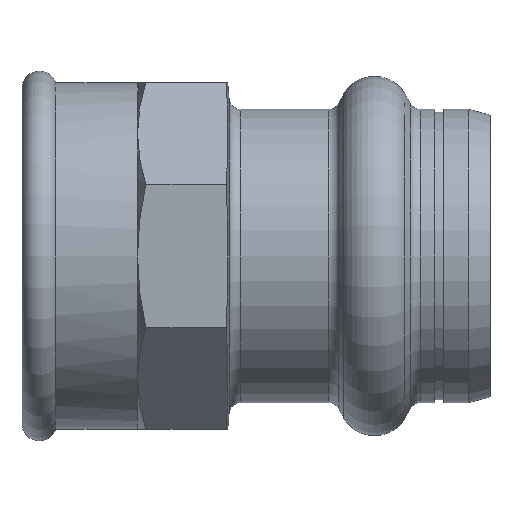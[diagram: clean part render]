
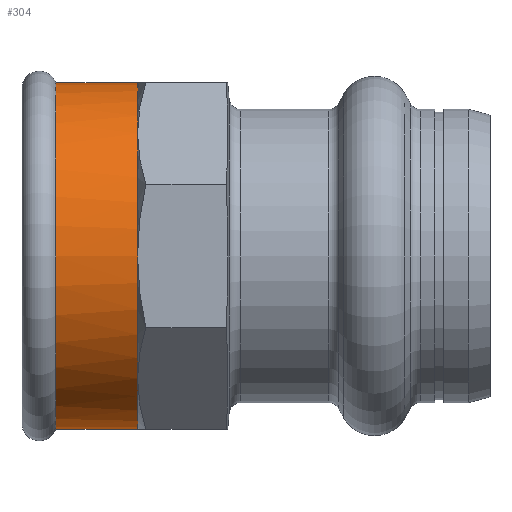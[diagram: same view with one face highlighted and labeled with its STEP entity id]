
A CAD part, left-side view. The second image highlights one B-rep face of the part: STEP entity #304.
In plain terms, the highlighted cylindrical face has radius 15 mm (diameter 30 mm), a partial arc.
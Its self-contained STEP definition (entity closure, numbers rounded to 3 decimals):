
#37 = DIRECTION ( 'NONE',  ( 0., 0., -1. ) ) ;
#163 = CARTESIAN_POINT ( 'NONE',  ( 0., 37.586, -15. ) ) ;
#171 = ORIENTED_EDGE ( 'NONE', *, *, #1885, .F. ) ;
#271 = CARTESIAN_POINT ( 'NONE',  ( -10.607, 30.5, 10.607 ) ) ;
#304 = ADVANCED_FACE ( 'NONE', ( #404 ), #348, .T. ) ;
#326 = LINE ( 'NONE', #698, #374 ) ;
#339 = DIRECTION ( 'NONE',  ( 0., 0., -1. ) ) ;
#348 = CYLINDRICAL_SURFACE ( 'NONE', #786, 15. ) ;
#374 = VECTOR ( 'NONE', #751, 1000. ) ;
#404 = FACE_OUTER_BOUND ( 'NONE', #1932, .T. ) ;
#429 = CARTESIAN_POINT ( 'NONE',  ( 0., 30.5, -15. ) ) ;
#517 = EDGE_CURVE ( 'NONE', #1335, #1547, #326, .T. ) ;
#527 = ORIENTED_EDGE ( 'NONE', *, *, #781, .F. ) ;
#532 = CARTESIAN_POINT ( 'NONE',  ( 0., 30.5, 0. ) ) ;
#536 = CIRCLE ( 'NONE', #640, 15. ) ;
#546 = DIRECTION ( 'NONE',  ( 0., -1., 0. ) ) ;
#573 = DIRECTION ( 'NONE',  ( 0., 0., -1. ) ) ;
#639 = LINE ( 'NONE', #1193, #1000 ) ;
#640 = AXIS2_PLACEMENT_3D ( 'NONE', #532, #546, #573 ) ;
#654 = CARTESIAN_POINT ( 'NONE',  ( 0., 30.5, 15. ) ) ;
#661 = AXIS2_PLACEMENT_3D ( 'NONE', #1596, #1603, #1617 ) ;
#698 = CARTESIAN_POINT ( 'NONE',  ( 0., -17.811, 15. ) ) ;
#723 = CARTESIAN_POINT ( 'NONE',  ( 0., 30.5, 0. ) ) ;
#742 = DIRECTION ( 'NONE',  ( 0., -1., 0. ) ) ;
#747 = VERTEX_POINT ( 'NONE', #163 ) ;
#751 = DIRECTION ( 'NONE',  ( 0., -1., 0. ) ) ;
#781 = EDGE_CURVE ( 'NONE', #1547, #1262, #1653, .T. ) ;
#786 = AXIS2_PLACEMENT_3D ( 'NONE', #1513, #1220, #339 ) ;
#837 = DIRECTION ( 'NONE',  ( 0., 0., -1. ) ) ;
#844 = AXIS2_PLACEMENT_3D ( 'NONE', #1459, #742, #837 ) ;
#1000 = VECTOR ( 'NONE', #1529, 1000. ) ;
#1020 = CARTESIAN_POINT ( 'NONE',  ( 0., 37.586, 15. ) ) ;
#1091 = CIRCLE ( 'NONE', #661, 15. ) ;
#1122 = AXIS2_PLACEMENT_3D ( 'NONE', #723, #1585, #1606 ) ;
#1171 = CARTESIAN_POINT ( 'NONE',  ( 0., 30.5, 0. ) ) ;
#1177 = DIRECTION ( 'NONE',  ( 0., -1., 0. ) ) ;
#1193 = CARTESIAN_POINT ( 'NONE',  ( 0., -17.811, -15. ) ) ;
#1197 = EDGE_CURVE ( 'NONE', #747, #1639, #639, .T. ) ;
#1211 = ORIENTED_EDGE ( 'NONE', *, *, #517, .F. ) ;
#1220 = DIRECTION ( 'NONE',  ( 0., -1., 0. ) ) ;
#1262 = VERTEX_POINT ( 'NONE', #271 ) ;
#1277 = EDGE_CURVE ( 'NONE', #1584, #1368, #536, .T. ) ;
#1291 = EDGE_CURVE ( 'NONE', #1335, #747, #1650, .T. ) ;
#1335 = VERTEX_POINT ( 'NONE', #1020 ) ;
#1368 = VERTEX_POINT ( 'NONE', #1445 ) ;
#1376 = ORIENTED_EDGE ( 'NONE', *, *, #1277, .F. ) ;
#1432 = ORIENTED_EDGE ( 'NONE', *, *, #1291, .T. ) ;
#1445 = CARTESIAN_POINT ( 'NONE',  ( -10.607, 30.5, -10.607 ) ) ;
#1459 = CARTESIAN_POINT ( 'NONE',  ( 0., 37.586, 0. ) ) ;
#1478 = CARTESIAN_POINT ( 'NONE',  ( -15., 30.5, 0. ) ) ;
#1479 = ORIENTED_EDGE ( 'NONE', *, *, #1197, .T. ) ;
#1513 = CARTESIAN_POINT ( 'NONE',  ( 0., -17.811, 0. ) ) ;
#1529 = DIRECTION ( 'NONE',  ( 0., -1., 0. ) ) ;
#1547 = VERTEX_POINT ( 'NONE', #654 ) ;
#1584 = VERTEX_POINT ( 'NONE', #1478 ) ;
#1585 = DIRECTION ( 'NONE',  ( 0., -1., 0. ) ) ;
#1596 = CARTESIAN_POINT ( 'NONE',  ( 0., 30.5, 0. ) ) ;
#1603 = DIRECTION ( 'NONE',  ( 0., -1., 0. ) ) ;
#1606 = DIRECTION ( 'NONE',  ( 0., 0., -1. ) ) ;
#1617 = DIRECTION ( 'NONE',  ( 0., 0., -1. ) ) ;
#1639 = VERTEX_POINT ( 'NONE', #429 ) ;
#1650 = CIRCLE ( 'NONE', #844, 15. ) ;
#1653 = CIRCLE ( 'NONE', #1122, 15. ) ;
#1815 = CIRCLE ( 'NONE', #1969, 15. ) ;
#1820 = EDGE_CURVE ( 'NONE', #1368, #1639, #1815, .T. ) ;
#1845 = ORIENTED_EDGE ( 'NONE', *, *, #1820, .F. ) ;
#1885 = EDGE_CURVE ( 'NONE', #1262, #1584, #1091, .T. ) ;
#1932 = EDGE_LOOP ( 'NONE', ( #1211, #1432, #1479, #1845, #1376, #171, #527 ) ) ;
#1969 = AXIS2_PLACEMENT_3D ( 'NONE', #1171, #1177, #37 ) ;
